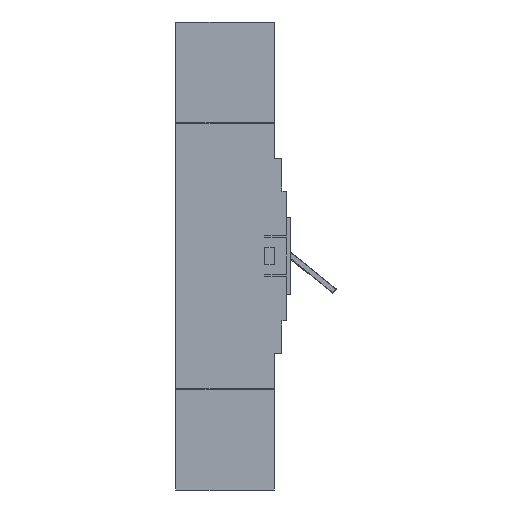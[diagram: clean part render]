
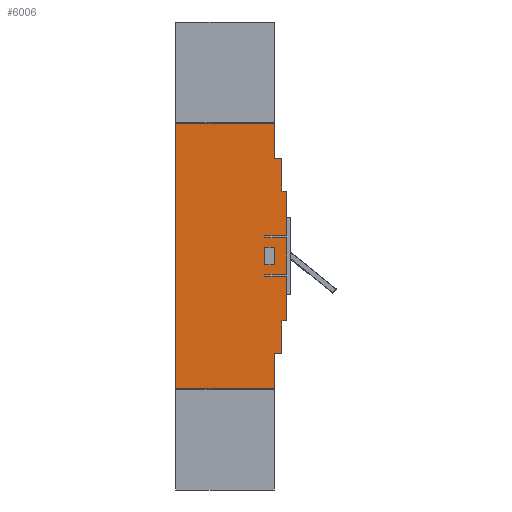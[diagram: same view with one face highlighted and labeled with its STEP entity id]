
A CAD part, left-side view. The second image highlights one B-rep face of the part: STEP entity #6006.
In plain terms, the highlighted planar face has unit normal (-1, 0, 0).
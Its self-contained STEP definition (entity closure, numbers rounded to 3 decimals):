
#134=CIRCLE('',#6349,1.);
#135=CIRCLE('',#6350,1.);
#372=FACE_BOUND('',#833,.T.);
#478=FACE_OUTER_BOUND('',#832,.T.);
#832=EDGE_LOOP('',(#4253,#4254,#4255,#4256,#4257,#4258,#4259,#4260,#4261,
#4262,#4263,#4264,#4265,#4266,#4267,#4268,#4269,#4270,#4271,#4272,#4273,
#4274));
#833=EDGE_LOOP('',(#4275,#4276,#4277,#4278));
#1167=LINE('',#8131,#1830);
#1171=LINE('',#8139,#1834);
#1174=LINE('',#8145,#1837);
#1178=LINE('',#8154,#1841);
#1182=LINE('',#8162,#1845);
#1185=LINE('',#8168,#1848);
#1189=LINE('',#8177,#1852);
#1193=LINE('',#8185,#1856);
#1196=LINE('',#8191,#1859);
#1199=LINE('',#8196,#1862);
#1201=LINE('',#8201,#1864);
#1213=LINE('',#8224,#1876);
#1214=LINE('',#8225,#1877);
#1346=LINE('',#8660,#2009);
#1349=LINE('',#8666,#2012);
#1351=LINE('',#8671,#2014);
#1354=LINE('',#8677,#2017);
#1356=LINE('',#8681,#2019);
#1359=LINE('',#8687,#2022);
#1360=LINE('',#8691,#2023);
#1361=LINE('',#8693,#2024);
#1362=LINE('',#8695,#2025);
#1363=LINE('',#8697,#2026);
#1364=LINE('',#8699,#2027);
#1830=VECTOR('',#6702,23.);
#1834=VECTOR('',#6708,2.);
#1837=VECTOR('',#6713,23.);
#1841=VECTOR('',#6721,23.);
#1845=VECTOR('',#6727,2.);
#1848=VECTOR('',#6732,23.);
#1852=VECTOR('',#6740,10.);
#1856=VECTOR('',#6746,18.4);
#1859=VECTOR('',#6751,10.);
#1862=VECTOR('',#6756,18.4);
#1864=VECTOR('',#6762,46.8);
#1876=VECTOR('',#6774,46.8);
#1877=VECTOR('',#6775,38.4);
#2009=VECTOR('',#6935,5.);
#2012=VECTOR('',#6940,34.);
#2014=VECTOR('',#6944,5.);
#2017=VECTOR('',#6949,34.);
#2019=VECTOR('',#6953,7.);
#2022=VECTOR('',#6958,7.);
#2023=VECTOR('',#6961,36.);
#2024=VECTOR('',#6962,103.);
#2025=VECTOR('',#6963,278.);
#2026=VECTOR('',#6964,103.);
#2027=VECTOR('',#6965,36.);
#2493=VERTEX_POINT('',#8129);
#2494=VERTEX_POINT('',#8130);
#2497=VERTEX_POINT('',#8138);
#2499=VERTEX_POINT('',#8144);
#2501=VERTEX_POINT('',#8152);
#2502=VERTEX_POINT('',#8153);
#2505=VERTEX_POINT('',#8161);
#2507=VERTEX_POINT('',#8167);
#2509=VERTEX_POINT('',#8175);
#2510=VERTEX_POINT('',#8176);
#2513=VERTEX_POINT('',#8184);
#2515=VERTEX_POINT('',#8190);
#2517=VERTEX_POINT('',#8200);
#2528=VERTEX_POINT('',#8222);
#2681=VERTEX_POINT('',#8658);
#2683=VERTEX_POINT('',#8664);
#2685=VERTEX_POINT('',#8670);
#2687=VERTEX_POINT('',#8676);
#2688=VERTEX_POINT('',#8680);
#2690=VERTEX_POINT('',#8686);
#2691=VERTEX_POINT('',#8688);
#2692=VERTEX_POINT('',#8690);
#2693=VERTEX_POINT('',#8692);
#2694=VERTEX_POINT('',#8694);
#2695=VERTEX_POINT('',#8696);
#2696=VERTEX_POINT('',#8698);
#3085=EDGE_CURVE('',#2493,#2494,#1167,.T.);
#3089=EDGE_CURVE('',#2497,#2493,#1171,.T.);
#3092=EDGE_CURVE('',#2499,#2497,#1174,.T.);
#3096=EDGE_CURVE('',#2501,#2502,#1178,.T.);
#3100=EDGE_CURVE('',#2505,#2501,#1182,.T.);
#3103=EDGE_CURVE('',#2507,#2505,#1185,.T.);
#3107=EDGE_CURVE('',#2509,#2510,#1189,.T.);
#3111=EDGE_CURVE('',#2513,#2509,#1193,.T.);
#3114=EDGE_CURVE('',#2515,#2513,#1196,.T.);
#3117=EDGE_CURVE('',#2510,#2515,#1199,.T.);
#3119=EDGE_CURVE('',#2499,#2517,#1201,.T.);
#3131=EDGE_CURVE('',#2528,#2502,#1213,.T.);
#3132=EDGE_CURVE('',#2507,#2494,#1214,.T.);
#3298=EDGE_CURVE('',#2528,#2681,#1346,.T.);
#3301=EDGE_CURVE('',#2681,#2683,#1349,.T.);
#3303=EDGE_CURVE('',#2685,#2517,#1351,.T.);
#3306=EDGE_CURVE('',#2687,#2685,#1354,.T.);
#3308=EDGE_CURVE('',#2687,#2688,#1356,.T.);
#3311=EDGE_CURVE('',#2690,#2683,#1359,.T.);
#3312=EDGE_CURVE('',#2691,#2690,#134,.T.);
#3313=EDGE_CURVE('',#2692,#2691,#1360,.T.);
#3314=EDGE_CURVE('',#2692,#2693,#1361,.T.);
#3315=EDGE_CURVE('',#2694,#2693,#1362,.T.);
#3316=EDGE_CURVE('',#2694,#2695,#1363,.T.);
#3317=EDGE_CURVE('',#2696,#2695,#1364,.T.);
#3318=EDGE_CURVE('',#2688,#2696,#135,.T.);
#4253=ORIENTED_EDGE('',*,*,#3085,.T.);
#4254=ORIENTED_EDGE('',*,*,#3132,.F.);
#4255=ORIENTED_EDGE('',*,*,#3103,.T.);
#4256=ORIENTED_EDGE('',*,*,#3100,.T.);
#4257=ORIENTED_EDGE('',*,*,#3096,.T.);
#4258=ORIENTED_EDGE('',*,*,#3131,.F.);
#4259=ORIENTED_EDGE('',*,*,#3298,.T.);
#4260=ORIENTED_EDGE('',*,*,#3301,.T.);
#4261=ORIENTED_EDGE('',*,*,#3311,.F.);
#4262=ORIENTED_EDGE('',*,*,#3312,.F.);
#4263=ORIENTED_EDGE('',*,*,#3313,.F.);
#4264=ORIENTED_EDGE('',*,*,#3314,.T.);
#4265=ORIENTED_EDGE('',*,*,#3315,.F.);
#4266=ORIENTED_EDGE('',*,*,#3316,.T.);
#4267=ORIENTED_EDGE('',*,*,#3317,.F.);
#4268=ORIENTED_EDGE('',*,*,#3318,.F.);
#4269=ORIENTED_EDGE('',*,*,#3308,.F.);
#4270=ORIENTED_EDGE('',*,*,#3306,.T.);
#4271=ORIENTED_EDGE('',*,*,#3303,.T.);
#4272=ORIENTED_EDGE('',*,*,#3119,.F.);
#4273=ORIENTED_EDGE('',*,*,#3092,.T.);
#4274=ORIENTED_EDGE('',*,*,#3089,.T.);
#4275=ORIENTED_EDGE('',*,*,#3107,.T.);
#4276=ORIENTED_EDGE('',*,*,#3117,.T.);
#4277=ORIENTED_EDGE('',*,*,#3114,.T.);
#4278=ORIENTED_EDGE('',*,*,#3111,.T.);
#5784=PLANE('',#6348);
#6006=ADVANCED_FACE('',(#478,#372),#5784,.F.);
#6348=AXIS2_PLACEMENT_3D('',#8685,#6956,#6957);
#6349=AXIS2_PLACEMENT_3D('',#8689,#6959,#6960);
#6350=AXIS2_PLACEMENT_3D('',#8700,#6966,#6967);
#6702=DIRECTION('',(0.,-1.,0.));
#6708=DIRECTION('',(0.,0.,1.));
#6713=DIRECTION('',(0.,1.,0.));
#6721=DIRECTION('',(0.,-1.,0.));
#6727=DIRECTION('',(0.,0.,1.));
#6732=DIRECTION('',(0.,1.,0.));
#6740=DIRECTION('',(0.,-1.,0.));
#6746=DIRECTION('',(0.,0.,1.));
#6751=DIRECTION('',(0.,1.,0.));
#6756=DIRECTION('',(0.,0.,-1.));
#6762=DIRECTION('',(0.,0.,-1.));
#6774=DIRECTION('',(0.,0.,-1.));
#6775=DIRECTION('',(0.,0.,-1.));
#6935=DIRECTION('',(0.,1.,0.));
#6940=DIRECTION('',(0.,0.,1.));
#6944=DIRECTION('',(0.,-1.,0.));
#6949=DIRECTION('',(0.,0.,1.));
#6953=DIRECTION('',(0.,1.,0.));
#6956=DIRECTION('center_axis',(1.,0.,0.));
#6957=DIRECTION('ref_axis',(0.,0.,1.));
#6958=DIRECTION('',(0.,-1.,0.));
#6959=DIRECTION('center_axis',(-1.,0.,0.));
#6960=DIRECTION('ref_axis',(0.,0.707,-0.707));
#6961=DIRECTION('',(0.,0.,-1.));
#6962=DIRECTION('',(0.,1.,0.));
#6963=DIRECTION('',(0.,0.,1.));
#6964=DIRECTION('',(0.,-1.,0.));
#6965=DIRECTION('',(0.,0.,-1.));
#6966=DIRECTION('center_axis',(-1.,0.,0.));
#6967=DIRECTION('ref_axis',(0.,0.707,0.707));
#8129=CARTESIAN_POINT('',(0.,106.136,117.68));
#8130=CARTESIAN_POINT('',(0.,83.136,117.68));
#8131=CARTESIAN_POINT('',(0.,118.181,117.68));
#8138=CARTESIAN_POINT('',(0.,106.136,115.68));
#8139=CARTESIAN_POINT('',(0.,106.136,125.013));
#8144=CARTESIAN_POINT('',(0.,83.136,115.68));
#8145=CARTESIAN_POINT('',(0.,106.681,115.68));
#8152=CARTESIAN_POINT('',(0.,106.136,158.08));
#8153=CARTESIAN_POINT('',(0.,83.136,158.08));
#8154=CARTESIAN_POINT('',(0.,118.181,158.08));
#8161=CARTESIAN_POINT('',(0.,106.136,156.08));
#8162=CARTESIAN_POINT('',(0.,106.136,145.213));
#8167=CARTESIAN_POINT('',(0.,83.136,156.08));
#8168=CARTESIAN_POINT('',(0.,106.681,156.08));
#8175=CARTESIAN_POINT('',(0.,106.136,146.08));
#8176=CARTESIAN_POINT('',(0.,96.136,146.08));
#8177=CARTESIAN_POINT('',(0.,118.181,146.08));
#8184=CARTESIAN_POINT('',(0.,106.136,127.68));
#8185=CARTESIAN_POINT('',(0.,106.136,131.013));
#8190=CARTESIAN_POINT('',(0.,96.136,127.68));
#8191=CARTESIAN_POINT('',(0.,113.181,127.68));
#8196=CARTESIAN_POINT('',(0.,96.136,140.213));
#8200=CARTESIAN_POINT('',(0.,83.136,68.88));
#8201=CARTESIAN_POINT('',(0.,83.136,238.88));
#8222=CARTESIAN_POINT('',(0.,83.136,204.88));
#8224=CARTESIAN_POINT('',(0.,83.136,238.88));
#8225=CARTESIAN_POINT('',(0.,83.136,238.88));
#8658=CARTESIAN_POINT('',(0.,88.136,204.88));
#8660=CARTESIAN_POINT('',(0.,106.681,204.88));
#8664=CARTESIAN_POINT('',(0.,88.136,238.88));
#8666=CARTESIAN_POINT('',(0.,88.136,169.613));
#8670=CARTESIAN_POINT('',(0.,88.136,68.88));
#8671=CARTESIAN_POINT('',(0.,109.181,68.88));
#8676=CARTESIAN_POINT('',(0.,88.136,34.88));
#8677=CARTESIAN_POINT('',(0.,88.136,84.613));
#8680=CARTESIAN_POINT('',(0.,95.136,34.88));
#8681=CARTESIAN_POINT('',(0.,83.136,34.88));
#8685=CARTESIAN_POINT('Origin',(0.,130.227,134.346));
#8686=CARTESIAN_POINT('',(0.,95.136,238.88));
#8687=CARTESIAN_POINT('',(0.,96.136,238.88));
#8688=CARTESIAN_POINT('',(0.,96.136,239.88));
#8689=CARTESIAN_POINT('Origin',(0.,95.136,239.88));
#8690=CARTESIAN_POINT('',(0.,96.136,275.88));
#8691=CARTESIAN_POINT('',(0.,96.136,276.88));
#8692=CARTESIAN_POINT('',(0.,199.136,275.88));
#8693=CARTESIAN_POINT('',(0.,164.681,275.88));
#8694=CARTESIAN_POINT('',(0.,199.136,-2.12));
#8695=CARTESIAN_POINT('',(0.,199.136,-3.12));
#8696=CARTESIAN_POINT('',(0.,96.136,-2.12));
#8697=CARTESIAN_POINT('',(0.,164.681,-2.12));
#8698=CARTESIAN_POINT('',(0.,96.136,33.88));
#8699=CARTESIAN_POINT('',(0.,96.136,34.88));
#8700=CARTESIAN_POINT('Origin',(0.,95.136,33.88));
